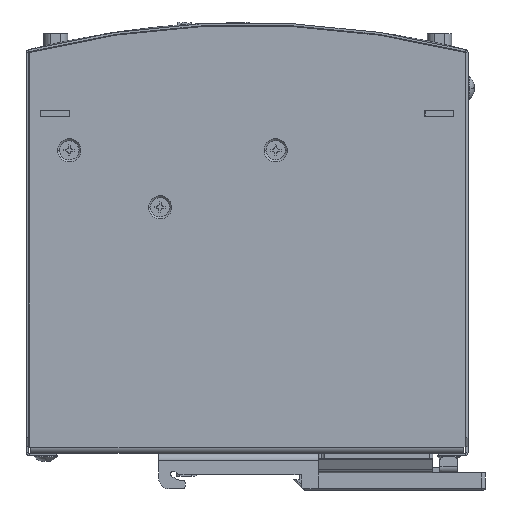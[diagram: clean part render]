
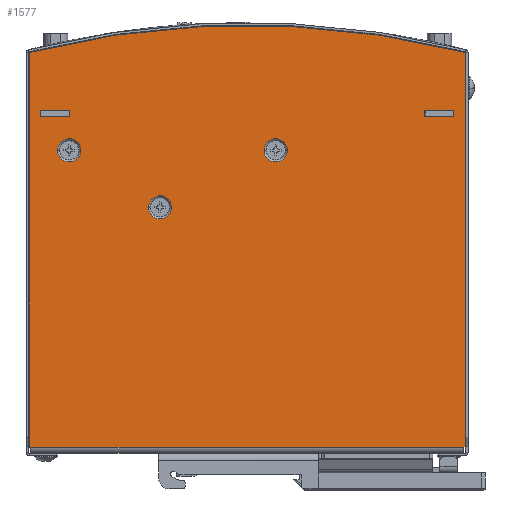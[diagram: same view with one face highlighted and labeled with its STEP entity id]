
A CAD part, left-side view. The second image highlights one B-rep face of the part: STEP entity #1577.
In plain terms, the highlighted planar face has unit normal (-1, 0, 0).
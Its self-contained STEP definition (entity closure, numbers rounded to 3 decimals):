
#518=DIRECTION('',(0.,-1.,0.));
#519=VECTOR('',#518,8.2);
#520=CARTESIAN_POINT('',(-25.,58.137,96.4));
#521=LINE('',#520,#519);
#522=DIRECTION('',(0.,0.,1.));
#523=VECTOR('',#522,1.8);
#524=CARTESIAN_POINT('',(-25.,58.137,94.6));
#525=LINE('',#524,#523);
#526=DIRECTION('',(0.,1.,0.));
#527=VECTOR('',#526,8.2);
#528=CARTESIAN_POINT('',(-25.,49.937,94.6));
#529=LINE('',#528,#527);
#530=DIRECTION('',(0.,0.,-1.));
#531=VECTOR('',#530,1.8);
#532=CARTESIAN_POINT('',(-25.,49.937,96.4));
#533=LINE('',#532,#531);
#534=DIRECTION('',(0.,0.,-1.));
#535=VECTOR('',#534,1.8);
#536=CARTESIAN_POINT('',(-25.,-58.063,96.4));
#537=LINE('',#536,#535);
#538=DIRECTION('',(0.,-1.,0.));
#539=VECTOR('',#538,8.2);
#540=CARTESIAN_POINT('',(-25.,-49.863,96.4));
#541=LINE('',#540,#539);
#542=DIRECTION('',(0.,0.,1.));
#543=VECTOR('',#542,1.8);
#544=CARTESIAN_POINT('',(-25.,-49.863,94.6));
#545=LINE('',#544,#543);
#546=DIRECTION('',(0.,1.,0.));
#547=VECTOR('',#546,8.2);
#548=CARTESIAN_POINT('',(-25.,-58.063,94.6));
#549=LINE('',#548,#547);
#550=CARTESIAN_POINT('',(-25.,-8.,85.1));
#551=DIRECTION('',(1.,0.,0.));
#552=DIRECTION('',(0.,1.,0.));
#553=AXIS2_PLACEMENT_3D('',#550,#551,#552);
#555=CARTESIAN_POINT('',(-25.,-8.,85.1));
#556=DIRECTION('',(1.,0.,0.));
#557=DIRECTION('',(0.,-1.,0.));
#558=AXIS2_PLACEMENT_3D('',#555,#556,#557);
#560=CARTESIAN_POINT('',(-25.,50.,85.1));
#561=DIRECTION('',(1.,0.,0.));
#562=DIRECTION('',(0.,1.,0.));
#563=AXIS2_PLACEMENT_3D('',#560,#561,#562);
#565=CARTESIAN_POINT('',(-25.,50.,85.1));
#566=DIRECTION('',(1.,0.,0.));
#567=DIRECTION('',(0.,-1.,0.));
#568=AXIS2_PLACEMENT_3D('',#565,#566,#567);
#570=CARTESIAN_POINT('',(-25.,24.5,69.1));
#571=DIRECTION('',(1.,0.,0.));
#572=DIRECTION('',(0.,1.,0.));
#573=AXIS2_PLACEMENT_3D('',#570,#571,#572);
#575=CARTESIAN_POINT('',(-25.,24.5,69.1));
#576=DIRECTION('',(1.,0.,0.));
#577=DIRECTION('',(0.,-1.,0.));
#578=AXIS2_PLACEMENT_3D('',#575,#576,#577);
#580=DIRECTION('',(0.,0.,1.));
#581=VECTOR('',#580,110.878);
#582=CARTESIAN_POINT('',(-25.,-61.3,1.7));
#583=LINE('',#582,#581);
#584=DIRECTION('',(0.,-1.,0.));
#585=VECTOR('',#584,0.5);
#586=CARTESIAN_POINT('',(-25.,-60.8,1.7));
#587=LINE('',#586,#585);
#588=DIRECTION('',(0.,-1.,0.));
#589=VECTOR('',#588,0.5);
#590=CARTESIAN_POINT('',(-25.,61.3,1.7));
#591=LINE('',#590,#589);
#592=DIRECTION('',(0.,0.,-1.));
#593=VECTOR('',#592,110.878);
#594=CARTESIAN_POINT('',(-25.,61.3,112.578));
#595=LINE('',#594,#593);
#596=CARTESIAN_POINT('',(-25.,0.,-129.79));
#597=DIRECTION('',(1.,0.,0.));
#598=DIRECTION('',(0.,0.245,0.969));
#599=AXIS2_PLACEMENT_3D('',#596,#597,#598);
#606=DIRECTION('',(0.,-1.,0.));
#607=VECTOR('',#606,121.6);
#608=CARTESIAN_POINT('',(-25.,60.8,1.7));
#609=LINE('',#608,#607);
#904=CARTESIAN_POINT('',(-25.,-61.3,112.578));
#905=CARTESIAN_POINT('',(-25.,61.3,112.578));
#906=VERTEX_POINT('',#904);
#907=VERTEX_POINT('',#905);
#912=CARTESIAN_POINT('',(-25.,58.137,96.4));
#913=CARTESIAN_POINT('',(-25.,49.937,96.4));
#914=VERTEX_POINT('',#912);
#915=VERTEX_POINT('',#913);
#916=CARTESIAN_POINT('',(-25.,49.937,94.6));
#917=VERTEX_POINT('',#916);
#918=CARTESIAN_POINT('',(-25.,58.137,94.6));
#919=VERTEX_POINT('',#918);
#920=CARTESIAN_POINT('',(-25.,-58.063,96.4));
#921=CARTESIAN_POINT('',(-25.,-58.063,94.6));
#922=VERTEX_POINT('',#920);
#923=VERTEX_POINT('',#921);
#924=CARTESIAN_POINT('',(-25.,-49.863,94.6));
#925=VERTEX_POINT('',#924);
#926=CARTESIAN_POINT('',(-25.,-49.863,96.4));
#927=VERTEX_POINT('',#926);
#944=CARTESIAN_POINT('',(-25.,-4.75,85.1));
#945=CARTESIAN_POINT('',(-25.,-11.25,85.1));
#946=VERTEX_POINT('',#944);
#947=VERTEX_POINT('',#945);
#1032=CARTESIAN_POINT('',(-25.,53.25,85.1));
#1033=CARTESIAN_POINT('',(-25.,46.75,85.1));
#1034=VERTEX_POINT('',#1032);
#1035=VERTEX_POINT('',#1033);
#1092=CARTESIAN_POINT('',(-25.,60.8,1.7));
#1093=VERTEX_POINT('',#1092);
#1094=CARTESIAN_POINT('',(-25.,-60.8,1.7));
#1095=VERTEX_POINT('',#1094);
#1100=CARTESIAN_POINT('',(-25.,-61.3,1.7));
#1101=VERTEX_POINT('',#1100);
#1102=CARTESIAN_POINT('',(-25.,61.3,1.7));
#1103=VERTEX_POINT('',#1102);
#1128=CARTESIAN_POINT('',(-25.,27.75,69.1));
#1129=CARTESIAN_POINT('',(-25.,21.25,69.1));
#1130=VERTEX_POINT('',#1128);
#1131=VERTEX_POINT('',#1129);
#1520=CARTESIAN_POINT('',(-25.,32.17,0.));
#1521=DIRECTION('',(-1.,0.,0.));
#1522=DIRECTION('',(0.,-1.,0.));
#1523=AXIS2_PLACEMENT_3D('',#1520,#1521,#1522);
#1524=PLANE('',#1523);
#1526=ORIENTED_EDGE('',*,*,#1525,.F.);
#1528=ORIENTED_EDGE('',*,*,#1527,.F.);
#1530=ORIENTED_EDGE('',*,*,#1529,.F.);
#1532=ORIENTED_EDGE('',*,*,#1531,.F.);
#1534=ORIENTED_EDGE('',*,*,#1533,.F.);
#1536=ORIENTED_EDGE('',*,*,#1535,.T.);
#1537=EDGE_LOOP('',(#1526,#1528,#1530,#1532,#1534,#1536));
#1538=FACE_OUTER_BOUND('',#1537,.F.);
#1540=ORIENTED_EDGE('',*,*,#1539,.F.);
#1542=ORIENTED_EDGE('',*,*,#1541,.F.);
#1544=ORIENTED_EDGE('',*,*,#1543,.F.);
#1546=ORIENTED_EDGE('',*,*,#1545,.F.);
#1547=EDGE_LOOP('',(#1540,#1542,#1544,#1546));
#1548=FACE_BOUND('',#1547,.F.);
#1550=ORIENTED_EDGE('',*,*,#1549,.F.);
#1552=ORIENTED_EDGE('',*,*,#1551,.F.);
#1553=EDGE_LOOP('',(#1550,#1552));
#1554=FACE_BOUND('',#1553,.F.);
#1556=ORIENTED_EDGE('',*,*,#1555,.F.);
#1558=ORIENTED_EDGE('',*,*,#1557,.F.);
#1559=EDGE_LOOP('',(#1556,#1558));
#1560=FACE_BOUND('',#1559,.F.);
#1562=ORIENTED_EDGE('',*,*,#1561,.F.);
#1564=ORIENTED_EDGE('',*,*,#1563,.F.);
#1565=EDGE_LOOP('',(#1562,#1564));
#1566=FACE_BOUND('',#1565,.F.);
#1568=ORIENTED_EDGE('',*,*,#1567,.F.);
#1570=ORIENTED_EDGE('',*,*,#1569,.F.);
#1572=ORIENTED_EDGE('',*,*,#1571,.F.);
#1574=ORIENTED_EDGE('',*,*,#1573,.F.);
#1575=EDGE_LOOP('',(#1568,#1570,#1572,#1574));
#1576=FACE_BOUND('',#1575,.F.);
#1577=ADVANCED_FACE('',(#1538,#1548,#1554,#1560,#1566,#1576),#1524,.T.);
#554=CIRCLE('',#553,3.25);
#559=CIRCLE('',#558,3.25);
#564=CIRCLE('',#563,3.25);
#569=CIRCLE('',#568,3.25);
#574=CIRCLE('',#573,3.25);
#579=CIRCLE('',#578,3.25);
#600=CIRCLE('',#599,250.);
#1525=EDGE_CURVE('',#1101,#906,#583,.T.);
#1527=EDGE_CURVE('',#1095,#1101,#587,.T.);
#1529=EDGE_CURVE('',#1093,#1095,#609,.T.);
#1531=EDGE_CURVE('',#1103,#1093,#591,.T.);
#1533=EDGE_CURVE('',#907,#1103,#595,.T.);
#1535=EDGE_CURVE('',#907,#906,#600,.T.);
#1539=EDGE_CURVE('',#922,#923,#537,.T.);
#1541=EDGE_CURVE('',#927,#922,#541,.T.);
#1543=EDGE_CURVE('',#925,#927,#545,.T.);
#1545=EDGE_CURVE('',#923,#925,#549,.T.);
#1549=EDGE_CURVE('',#946,#947,#554,.T.);
#1551=EDGE_CURVE('',#947,#946,#559,.T.);
#1555=EDGE_CURVE('',#1034,#1035,#564,.T.);
#1557=EDGE_CURVE('',#1035,#1034,#569,.T.);
#1561=EDGE_CURVE('',#1130,#1131,#574,.T.);
#1563=EDGE_CURVE('',#1131,#1130,#579,.T.);
#1567=EDGE_CURVE('',#914,#915,#521,.T.);
#1569=EDGE_CURVE('',#919,#914,#525,.T.);
#1571=EDGE_CURVE('',#917,#919,#529,.T.);
#1573=EDGE_CURVE('',#915,#917,#533,.T.);
